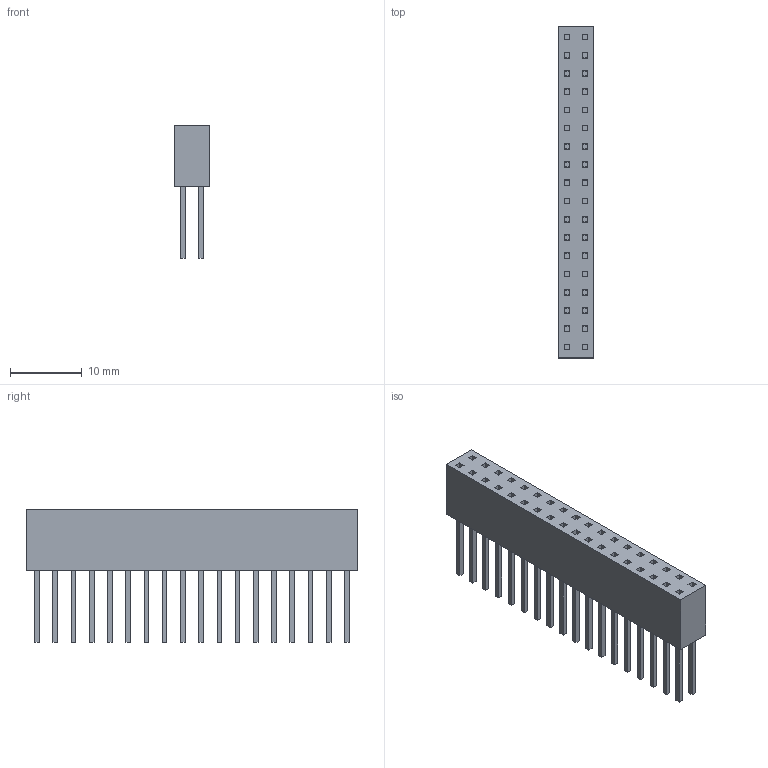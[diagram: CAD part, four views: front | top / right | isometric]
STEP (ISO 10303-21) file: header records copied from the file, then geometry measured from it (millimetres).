
FILE_DESCRIPTION(('FreeCAD Model'),'2;1');
FILE_NAME('Open CASCADE Shape Model','2026-10-15T16:03:42',('FreeCAD'),( 'FreeCAD'),'Open CASCADE STEP processor 7.9','FreeCAD','Unknown');
FILE_SCHEMA(('AUTOMOTIVE_DESIGN { 1 0 10303 214 1 1 1 1 }'));
Length unit declared in the file: millimetre
Products named in the file (1): Open CASCADE STEP translator 7.9 12
Bounding box: 4.95 x 46.23 x 18.51 mm (x, y, z)
Volume: 1974.4 mm3; surface area: 3214.1 mm2
Topology: 37 solids, 37 shells, 402 faces, 876 edges, 584 vertices
Faces by surface type: plane 402
Entity records: 10678 total; most frequent: CARTESIAN_POINT 1863, ORIENTED_EDGE 1752, DIRECTION 1682, EDGE_CURVE 876, LINE 876, VECTOR 876, VERTEX_POINT 584, FACE_BOUND 438
